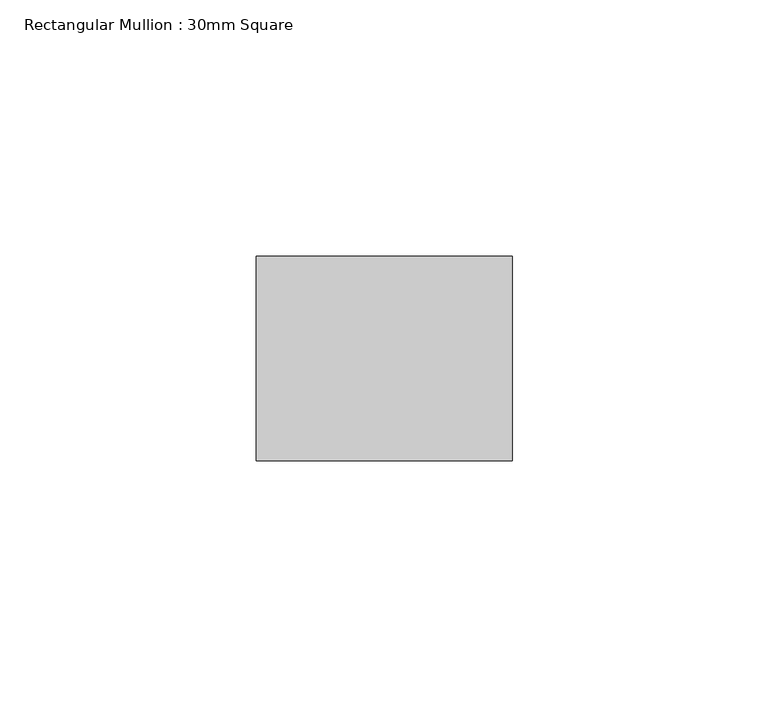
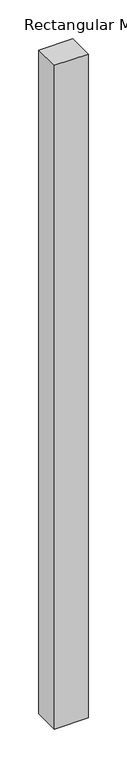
"""IFC4 building model written with IfcOpenShell, lengths in millimetres: member geometry, Rectangular Mullion : 30mm Square."""

from ifc_helpers import new_model, si_unit, frame, origin, place, context, project, spatial, polyline, outline, extrude, source, transform, mapped, element, save


def rectangular_mullion_30mm_square_cfffb5b5(model_context):
    return source(origin(), model_context, "Body", "SweptSolid", [
        extrude(outline(polyline([(25.0, 20.0), (25.0, -20.0), (-25.0, -20.0), (-25.0, 20.0), (25.0, 20.0)])), frame((0.0, 0.0, -1041.7444455), z_axis=(0.0, 0.0, 1.0), x_axis=(1.0, 0.0, 0.0)), (0.0, 0.0, 1.0), 1041.7444455),
    ])


if __name__ == "__main__":
    model = new_model("IFC4")
    model_context = context("Model", 3, world=origin())
    ifc_project = project(units=[si_unit("LENGTHUNIT", "METRE", prefix="MILLI")], contexts=[model_context])
    site = spatial("IfcSite", under=ifc_project)
    building = spatial("IfcBuilding", under=site)
    placement = place(None, origin())
    rectangular_mullion_30mm_square_shape = rectangular_mullion_30mm_square_cfffb5b5(model_context)
    element("IfcMember", 1, ObjectType="Rectangular Mullion : 30mm Square", at=placement, inside=building, context=model_context, shape_type="MappedRepresentation", body=[
        mapped(rectangular_mullion_30mm_square_shape, transform((0.0, 0.0, 0.0), x_axis=(1.0, 0.0, 0.0), y_axis=(0.0, 1.0, 0.0), z_axis=(0.0, 0.0, 1.0))),
    ])
    save(model, "model.ifc")
